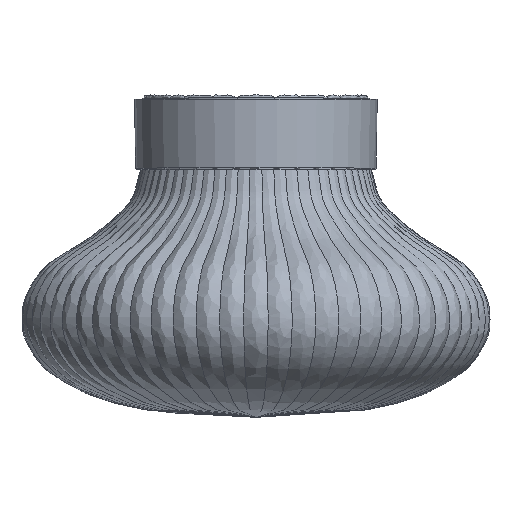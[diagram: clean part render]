
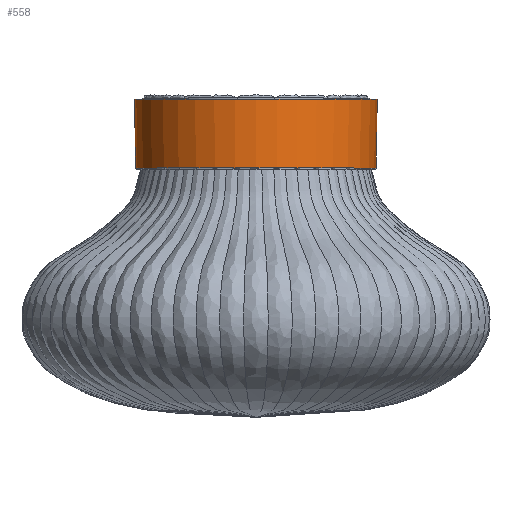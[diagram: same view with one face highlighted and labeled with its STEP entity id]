
A CAD part, top view. The second image highlights one B-rep face of the part: STEP entity #558.
In plain terms, the highlighted free-form (B-spline) face has degree [2, 1] with [9, 2] control points.
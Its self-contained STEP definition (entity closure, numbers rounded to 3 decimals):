
#558=ADVANCED_FACE('',(#1193),#9514,.T.);
#1193=FACE_OUTER_BOUND('',#1800,.T.);
#1800=EDGE_LOOP('',(#3993,#3994,#3995,#3996));
#3993=ORIENTED_EDGE('',*,*,#5981,.F.);
#3994=ORIENTED_EDGE('',*,*,#5978,.F.);
#3995=ORIENTED_EDGE('',*,*,#5982,.T.);
#3996=ORIENTED_EDGE('',*,*,#5980,.F.);
#5978=EDGE_CURVE('',#9074,#9073,#8076,.T.);
#5980=EDGE_CURVE('',#9072,#9075,#8077,.T.);
#5981=EDGE_CURVE('',#9073,#9072,#6691,.T.);
#5982=EDGE_CURVE('',#9074,#9075,#6692,.T.);
#6691=TRIMMED_CURVE($,#7110,(#85144),(#85145),.T.,.CARTESIAN.);
#6692=TRIMMED_CURVE($,#7111,(#85147),(#85148),.T.,.CARTESIAN.);
#7110=CIRCLE('',#10248,38.417);
#7111=CIRCLE('',#10249,38.8);
#8076=B_SPLINE_CURVE_WITH_KNOTS('',1,(#85136,#85137),.UNSPECIFIED.,.F.,
 .F.,(2,2),(-21.969,0.),.UNSPECIFIED.);
#8077=B_SPLINE_CURVE_WITH_KNOTS('',1,(#85141,#85142),.UNSPECIFIED.,.F.,
 .F.,(2,2),(-21.969,0.),.UNSPECIFIED.);
#9072=VERTEX_POINT('',#84440);
#9073=VERTEX_POINT('',#84441);
#9074=VERTEX_POINT('',#84442);
#9075=VERTEX_POINT('',#84443);
#9514=(
BOUNDED_SURFACE()
B_SPLINE_SURFACE(2,1,((#82067,#82068),(#82069,#82070),(#82071,#82072),(#82073,
#82074),(#82075,#82076),(#82077,#82078),(#82079,#82080),(#82081,#82082),
(#82083,#82084)),.UNSPECIFIED.,.T.,.F.,.F.)
B_SPLINE_SURFACE_WITH_KNOTS((3,2,2,2,3),(2,2),(0.,61.013,122.027,
183.04,244.053),(0.,26.811),.UNSPECIFIED.)
GEOMETRIC_REPRESENTATION_ITEM()
RATIONAL_B_SPLINE_SURFACE(((1.,1.),(0.707,0.707),
(1.,1.),(0.707,0.707),(1.,1.),(0.707,
0.707),(1.,1.),(0.707,0.707),(1.,1.)))
REPRESENTATION_ITEM('')
SURFACE()
);
#10248=AXIS2_PLACEMENT_3D($,#85143,#11123,#11124);
#10249=AXIS2_PLACEMENT_3D($,#85146,#11125,#11126);
#11123=DIRECTION('',(0.,-1.,0.));
#11124=DIRECTION('',(1.,0.,0.));
#11125=DIRECTION('',(0.,-1.,0.));
#11126=DIRECTION('',(1.,0.,0.));
#82067=CARTESIAN_POINT('',(0.,107.014,-188.374));
#82068=CARTESIAN_POINT('',(0.,133.821,-188.842));
#82069=CARTESIAN_POINT('',(-38.374,107.014,-188.374));
#82070=CARTESIAN_POINT('',(-38.842,133.821,-188.842));
#82071=CARTESIAN_POINT('',(-38.374,107.014,-150.));
#82072=CARTESIAN_POINT('',(-38.842,133.821,-150.));
#82073=CARTESIAN_POINT('',(-38.374,107.014,-111.626));
#82074=CARTESIAN_POINT('',(-38.842,133.821,-111.158));
#82075=CARTESIAN_POINT('',(0.,107.014,-111.626));
#82076=CARTESIAN_POINT('',(0.,133.821,-111.158));
#82077=CARTESIAN_POINT('',(38.374,107.014,-111.626));
#82078=CARTESIAN_POINT('',(38.842,133.821,-111.158));
#82079=CARTESIAN_POINT('',(38.374,107.014,-150.));
#82080=CARTESIAN_POINT('',(38.842,133.821,-150.));
#82081=CARTESIAN_POINT('',(38.374,107.014,-188.374));
#82082=CARTESIAN_POINT('',(38.842,133.821,-188.842));
#82083=CARTESIAN_POINT('',(0.,107.014,-188.374));
#82084=CARTESIAN_POINT('',(0.,133.821,-188.842));
#84440=CARTESIAN_POINT('',(-38.417,109.434,-150.));
#84441=CARTESIAN_POINT('',(38.417,109.434,-150.));
#84442=CARTESIAN_POINT('',(38.8,131.4,-150.));
#84443=CARTESIAN_POINT('',(-38.8,131.4,-150.));
#85136=CARTESIAN_POINT('',(38.8,131.4,-150.));
#85137=CARTESIAN_POINT('',(38.417,109.434,-150.));
#85141=CARTESIAN_POINT('',(-38.417,109.434,-150.));
#85142=CARTESIAN_POINT('',(-38.8,131.4,-150.));
#85143=CARTESIAN_POINT('',(0.,109.434,-150.));
#85144=CARTESIAN_POINT('',(38.417,109.434,-150.));
#85145=CARTESIAN_POINT('',(-38.417,109.434,-150.));
#85146=CARTESIAN_POINT('',(0.,131.4,-150.));
#85147=CARTESIAN_POINT('',(38.8,131.4,-150.));
#85148=CARTESIAN_POINT('',(-38.8,131.4,-150.));
